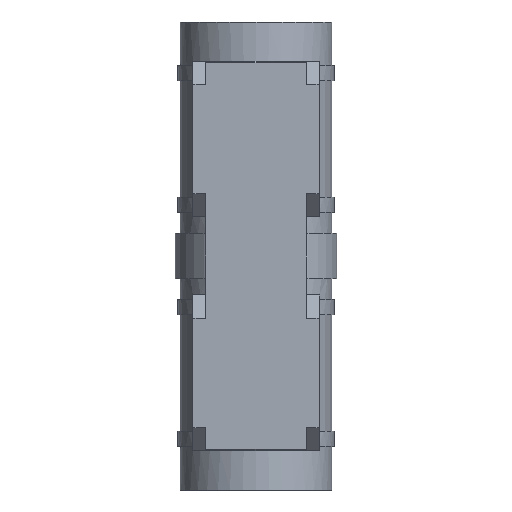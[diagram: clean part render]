
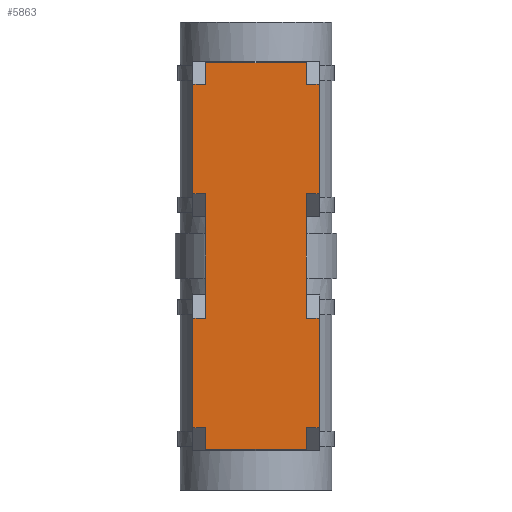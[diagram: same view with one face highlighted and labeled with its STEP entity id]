
A CAD part, front view. The second image highlights one B-rep face of the part: STEP entity #5863.
In plain terms, the highlighted planar face has unit normal (0, -1, 0).
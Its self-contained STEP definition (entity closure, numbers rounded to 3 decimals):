
#396=PLANE('',#6210);
#590=FACE_OUTER_BOUND('',#893,.T.);
#893=EDGE_LOOP('',(#4173,#4174,#4175,#4176,#4177,#4178,#4179,#4180,#4181,
#4182,#4183,#4184,#4185,#4186,#4187,#4188,#4189,#4190,#4191,#4192));
#1193=LINE('',#10148,#1509);
#1194=LINE('',#10150,#1510);
#1195=LINE('',#10152,#1511);
#1196=LINE('',#10154,#1512);
#1197=LINE('',#10156,#1513);
#1198=LINE('',#10158,#1514);
#1199=LINE('',#10160,#1515);
#1200=LINE('',#10162,#1516);
#1201=LINE('',#10164,#1517);
#1202=LINE('',#10166,#1518);
#1203=LINE('',#10168,#1519);
#1204=LINE('',#10170,#1520);
#1205=LINE('',#10172,#1521);
#1206=LINE('',#10174,#1522);
#1207=LINE('',#10176,#1523);
#1208=LINE('',#10178,#1524);
#1209=LINE('',#10180,#1525);
#1210=LINE('',#10182,#1526);
#1211=LINE('',#10184,#1527);
#1212=LINE('',#10185,#1528);
#1509=VECTOR('',#6882,10.);
#1510=VECTOR('',#6883,10.);
#1511=VECTOR('',#6884,10.);
#1512=VECTOR('',#6885,10.);
#1513=VECTOR('',#6886,10.);
#1514=VECTOR('',#6887,10.);
#1515=VECTOR('',#6888,10.);
#1516=VECTOR('',#6889,10.);
#1517=VECTOR('',#6890,10.);
#1518=VECTOR('',#6891,10.);
#1519=VECTOR('',#6892,10.);
#1520=VECTOR('',#6893,10.);
#1521=VECTOR('',#6894,10.);
#1522=VECTOR('',#6895,10.);
#1523=VECTOR('',#6896,10.);
#1524=VECTOR('',#6897,10.);
#1525=VECTOR('',#6898,10.);
#1526=VECTOR('',#6899,10.);
#1527=VECTOR('',#6900,10.);
#1528=VECTOR('',#6901,10.);
#2297=VERTEX_POINT('',#10146);
#2298=VERTEX_POINT('',#10147);
#2299=VERTEX_POINT('',#10149);
#2300=VERTEX_POINT('',#10151);
#2301=VERTEX_POINT('',#10153);
#2302=VERTEX_POINT('',#10155);
#2303=VERTEX_POINT('',#10157);
#2304=VERTEX_POINT('',#10159);
#2305=VERTEX_POINT('',#10161);
#2306=VERTEX_POINT('',#10163);
#2307=VERTEX_POINT('',#10165);
#2308=VERTEX_POINT('',#10167);
#2309=VERTEX_POINT('',#10169);
#2310=VERTEX_POINT('',#10171);
#2311=VERTEX_POINT('',#10173);
#2312=VERTEX_POINT('',#10175);
#2313=VERTEX_POINT('',#10177);
#2314=VERTEX_POINT('',#10179);
#2315=VERTEX_POINT('',#10181);
#2316=VERTEX_POINT('',#10183);
#2990=EDGE_CURVE('',#2297,#2298,#1193,.T.);
#2991=EDGE_CURVE('',#2299,#2298,#1194,.T.);
#2992=EDGE_CURVE('',#2299,#2300,#1195,.T.);
#2993=EDGE_CURVE('',#2301,#2300,#1196,.T.);
#2994=EDGE_CURVE('',#2302,#2301,#1197,.T.);
#2995=EDGE_CURVE('',#2303,#2302,#1198,.T.);
#2996=EDGE_CURVE('',#2303,#2304,#1199,.T.);
#2997=EDGE_CURVE('',#2305,#2304,#1200,.T.);
#2998=EDGE_CURVE('',#2305,#2306,#1201,.T.);
#2999=EDGE_CURVE('',#2307,#2306,#1202,.T.);
#3000=EDGE_CURVE('',#2308,#2307,#1203,.T.);
#3001=EDGE_CURVE('',#2308,#2309,#1204,.T.);
#3002=EDGE_CURVE('',#2310,#2309,#1205,.T.);
#3003=EDGE_CURVE('',#2311,#2310,#1206,.T.);
#3004=EDGE_CURVE('',#2312,#2311,#1207,.T.);
#3005=EDGE_CURVE('',#2313,#2312,#1208,.T.);
#3006=EDGE_CURVE('',#2314,#2313,#1209,.T.);
#3007=EDGE_CURVE('',#2314,#2315,#1210,.T.);
#3008=EDGE_CURVE('',#2316,#2315,#1211,.T.);
#3009=EDGE_CURVE('',#2297,#2316,#1212,.T.);
#4173=ORIENTED_EDGE('',*,*,#2990,.T.);
#4174=ORIENTED_EDGE('',*,*,#2991,.F.);
#4175=ORIENTED_EDGE('',*,*,#2992,.T.);
#4176=ORIENTED_EDGE('',*,*,#2993,.F.);
#4177=ORIENTED_EDGE('',*,*,#2994,.F.);
#4178=ORIENTED_EDGE('',*,*,#2995,.F.);
#4179=ORIENTED_EDGE('',*,*,#2996,.T.);
#4180=ORIENTED_EDGE('',*,*,#2997,.F.);
#4181=ORIENTED_EDGE('',*,*,#2998,.T.);
#4182=ORIENTED_EDGE('',*,*,#2999,.F.);
#4183=ORIENTED_EDGE('',*,*,#3000,.F.);
#4184=ORIENTED_EDGE('',*,*,#3001,.T.);
#4185=ORIENTED_EDGE('',*,*,#3002,.F.);
#4186=ORIENTED_EDGE('',*,*,#3003,.F.);
#4187=ORIENTED_EDGE('',*,*,#3004,.F.);
#4188=ORIENTED_EDGE('',*,*,#3005,.F.);
#4189=ORIENTED_EDGE('',*,*,#3006,.F.);
#4190=ORIENTED_EDGE('',*,*,#3007,.T.);
#4191=ORIENTED_EDGE('',*,*,#3008,.F.);
#4192=ORIENTED_EDGE('',*,*,#3009,.F.);
#5863=ADVANCED_FACE('',(#590),#396,.F.);
#6210=AXIS2_PLACEMENT_3D('',#10145,#6880,#6881);
#6880=DIRECTION('center_axis',(0.,1.,0.));
#6881=DIRECTION('ref_axis',(0.,0.,1.));
#6882=DIRECTION('',(-1.,0.,0.));
#6883=DIRECTION('',(0.,0.,1.));
#6884=DIRECTION('',(1.,0.,0.));
#6885=DIRECTION('',(0.,0.,1.));
#6886=DIRECTION('',(-1.,0.,0.));
#6887=DIRECTION('',(0.,0.,-1.));
#6888=DIRECTION('',(1.,0.,0.));
#6889=DIRECTION('',(0.,0.,-1.));
#6890=DIRECTION('',(-1.,0.,0.));
#6891=DIRECTION('',(0.,0.,-1.));
#6892=DIRECTION('',(-1.,0.,0.));
#6893=DIRECTION('',(0.,0.,1.));
#6894=DIRECTION('',(1.,0.,0.));
#6895=DIRECTION('',(0.,0.,-1.));
#6896=DIRECTION('',(1.,0.,0.));
#6897=DIRECTION('',(0.,0.,1.));
#6898=DIRECTION('',(1.,0.,0.));
#6899=DIRECTION('',(0.,0.,-1.));
#6900=DIRECTION('',(-1.,0.,0.));
#6901=DIRECTION('',(0.,0.,1.));
#10145=CARTESIAN_POINT('Origin',(0.,-128.,-151.25));
#10146=CARTESIAN_POINT('',(-65.,-128.,-80.417));
#10147=CARTESIAN_POINT('',(-81.667,-128.,-80.417));
#10148=CARTESIAN_POINT('',(40.833,-128.,-80.417));
#10149=CARTESIAN_POINT('',(-81.667,-128.,-222.083));
#10150=CARTESIAN_POINT('',(-81.667,-128.,-252.083));
#10151=CARTESIAN_POINT('',(-65.,-128.,-222.083));
#10152=CARTESIAN_POINT('',(-40.833,-128.,-222.083));
#10153=CARTESIAN_POINT('',(-65.,-128.,-250.));
#10154=CARTESIAN_POINT('',(-65.,-128.,-250.));
#10155=CARTESIAN_POINT('',(65.,-128.,-250.));
#10156=CARTESIAN_POINT('',(65.,-128.,-250.));
#10157=CARTESIAN_POINT('',(65.,-128.,-222.083));
#10158=CARTESIAN_POINT('',(65.,-128.,250.));
#10159=CARTESIAN_POINT('',(81.667,-128.,-222.083));
#10160=CARTESIAN_POINT('',(-40.833,-128.,-222.083));
#10161=CARTESIAN_POINT('',(81.667,-128.,-80.417));
#10162=CARTESIAN_POINT('',(81.667,-128.,-50.417));
#10163=CARTESIAN_POINT('',(65.,-128.,-80.417));
#10164=CARTESIAN_POINT('',(40.833,-128.,-80.417));
#10165=CARTESIAN_POINT('',(65.,-128.,80.417));
#10166=CARTESIAN_POINT('',(65.,-128.,250.));
#10167=CARTESIAN_POINT('',(81.667,-128.,80.417));
#10168=CARTESIAN_POINT('',(40.833,-128.,80.417));
#10169=CARTESIAN_POINT('',(81.667,-128.,222.083));
#10170=CARTESIAN_POINT('',(81.667,-128.,50.417));
#10171=CARTESIAN_POINT('',(65.,-128.,222.083));
#10172=CARTESIAN_POINT('',(-40.833,-128.,222.083));
#10173=CARTESIAN_POINT('',(65.,-128.,250.));
#10174=CARTESIAN_POINT('',(65.,-128.,250.));
#10175=CARTESIAN_POINT('',(-65.,-128.,250.));
#10176=CARTESIAN_POINT('',(-65.,-128.,250.));
#10177=CARTESIAN_POINT('',(-65.,-128.,222.083));
#10178=CARTESIAN_POINT('',(-65.,-128.,-250.));
#10179=CARTESIAN_POINT('',(-81.667,-128.,222.083));
#10180=CARTESIAN_POINT('',(-40.833,-128.,222.083));
#10181=CARTESIAN_POINT('',(-81.667,-128.,80.417));
#10182=CARTESIAN_POINT('',(-81.667,-128.,252.083));
#10183=CARTESIAN_POINT('',(-65.,-128.,80.417));
#10184=CARTESIAN_POINT('',(40.833,-128.,80.417));
#10185=CARTESIAN_POINT('',(-65.,-128.,-250.));
